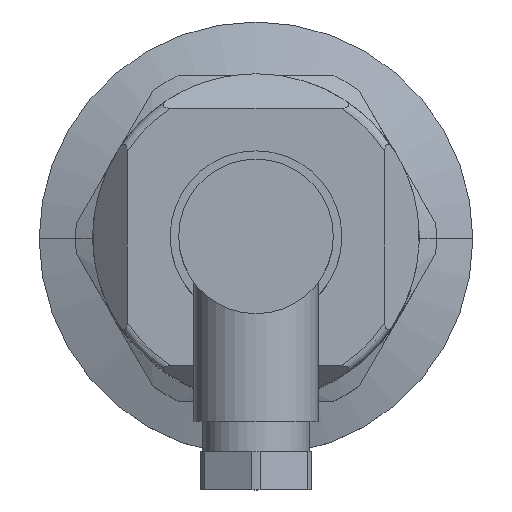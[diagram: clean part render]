
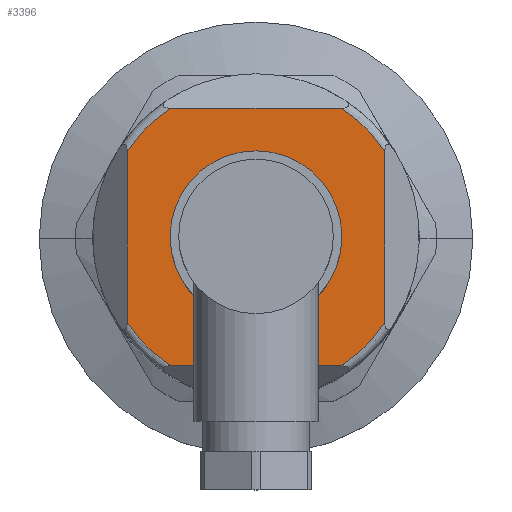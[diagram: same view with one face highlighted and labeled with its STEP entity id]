
A CAD part, top view. The second image highlights one B-rep face of the part: STEP entity #3396.
In plain terms, the highlighted planar face has unit normal (0, 0, 1) as drawn and (0, 1, 0) by its records, which use the part's own axes.
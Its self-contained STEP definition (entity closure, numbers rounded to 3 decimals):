
#6 = CARTESIAN_POINT ( 'NONE',  ( -50.913, 77.913, 7.75 ) ) ;
#23 = AXIS2_PLACEMENT_3D ( 'NONE', #3519, #1164, #1522 ) ;
#136 = EDGE_LOOP ( 'NONE', ( #1285, #2017 ) ) ;
#240 = CARTESIAN_POINT ( 'NONE',  ( -50.913, 77.913, 7.75 ) ) ;
#318 = LINE ( 'NONE', #760, #2897 ) ;
#353 = ORIENTED_EDGE ( 'NONE', *, *, #1724, .T. ) ;
#364 = FACE_BOUND ( 'NONE', #136, .T. ) ;
#444 = DIRECTION ( 'NONE',  ( 1., 0., 0. ) ) ;
#452 = AXIS2_PLACEMENT_3D ( 'NONE', #2809, #3941, #444 ) ;
#460 = AXIS2_PLACEMENT_3D ( 'NONE', #6, #4348, #1249 ) ;
#540 = CARTESIAN_POINT ( 'NONE',  ( -65.913, 77.913, 17.7 ) ) ;
#559 = EDGE_CURVE ( 'NONE', #2497, #4232, #4663, .T. ) ;
#642 = DIRECTION ( 'NONE',  ( 1., 0., 0. ) ) ;
#723 = DIRECTION ( 'NONE',  ( 1., 0., 0. ) ) ;
#731 = CIRCLE ( 'NONE', #1404, 18. ) ;
#760 = CARTESIAN_POINT ( 'NONE',  ( -65.913, 77.913, 7.75 ) ) ;
#805 = CIRCLE ( 'NONE', #2639, 6. ) ;
#865 = LINE ( 'NONE', #2904, #3148 ) ;
#972 = VERTEX_POINT ( 'NONE', #3587 ) ;
#1001 = EDGE_CURVE ( 'NONE', #2256, #972, #2833, .T. ) ;
#1042 = EDGE_CURVE ( 'NONE', #1345, #2445, #805, .T. ) ;
#1055 = CIRCLE ( 'NONE', #452, 18. ) ;
#1103 = ORIENTED_EDGE ( 'NONE', *, *, #4913, .F. ) ;
#1116 = ORIENTED_EDGE ( 'NONE', *, *, #3080, .F. ) ;
#1164 = DIRECTION ( 'NONE',  ( 0., -1., 0. ) ) ;
#1249 = DIRECTION ( 'NONE',  ( 1., 0., 0. ) ) ;
#1285 = ORIENTED_EDGE ( 'NONE', *, *, #1042, .F. ) ;
#1288 = VECTOR ( 'NONE', #2448, 1000. ) ;
#1345 = VERTEX_POINT ( 'NONE', #5098 ) ;
#1352 = CARTESIAN_POINT ( 'NONE',  ( -44.913, 77.913, 7.75 ) ) ;
#1404 = AXIS2_PLACEMENT_3D ( 'NONE', #240, #2964, #642 ) ;
#1416 = ORIENTED_EDGE ( 'NONE', *, *, #559, .F. ) ;
#1487 = VECTOR ( 'NONE', #4404, 1000. ) ;
#1522 = DIRECTION ( 'NONE',  ( 1., 0., 0. ) ) ;
#1568 = CIRCLE ( 'NONE', #3208, 18. ) ;
#1610 = FACE_OUTER_BOUND ( 'NONE', #4076, .T. ) ;
#1692 = CARTESIAN_POINT ( 'NONE',  ( -44.913, 77.913, 22.75 ) ) ;
#1724 = EDGE_CURVE ( 'NONE', #2497, #2856, #1568, .T. ) ;
#1759 = ORIENTED_EDGE ( 'NONE', *, *, #4027, .F. ) ;
#1781 = CIRCLE ( 'NONE', #3204, 6. ) ;
#1848 = CARTESIAN_POINT ( 'NONE',  ( -60.863, 77.913, 22.75 ) ) ;
#1890 = CARTESIAN_POINT ( 'NONE',  ( -40.963, 77.913, -7.25 ) ) ;
#1980 = VERTEX_POINT ( 'NONE', #540 ) ;
#2017 = ORIENTED_EDGE ( 'NONE', *, *, #3651, .F. ) ;
#2235 = VERTEX_POINT ( 'NONE', #1890 ) ;
#2256 = VERTEX_POINT ( 'NONE', #5029 ) ;
#2442 = CARTESIAN_POINT ( 'NONE',  ( -35.913, 77.913, -2.2 ) ) ;
#2445 = VERTEX_POINT ( 'NONE', #1352 ) ;
#2448 = DIRECTION ( 'NONE',  ( -1., 0., 0. ) ) ;
#2497 = VERTEX_POINT ( 'NONE', #4874 ) ;
#2504 = EDGE_CURVE ( 'NONE', #1980, #4232, #731, .T. ) ;
#2527 = CARTESIAN_POINT ( 'NONE',  ( -50.913, 77.913, 7.75 ) ) ;
#2639 = AXIS2_PLACEMENT_3D ( 'NONE', #4365, #3231, #3602 ) ;
#2809 = CARTESIAN_POINT ( 'NONE',  ( -50.913, 77.913, 7.75 ) ) ;
#2833 = CIRCLE ( 'NONE', #460, 18. ) ;
#2856 = VERTEX_POINT ( 'NONE', #4534 ) ;
#2897 = VECTOR ( 'NONE', #3477, 1000. ) ;
#2904 = CARTESIAN_POINT ( 'NONE',  ( -35.913, 77.913, 7.75 ) ) ;
#2964 = DIRECTION ( 'NONE',  ( 0., 1., 0. ) ) ;
#2978 = DIRECTION ( 'NONE',  ( -1., 0., 0. ) ) ;
#3080 = EDGE_CURVE ( 'NONE', #4553, #2856, #865, .T. ) ;
#3148 = VECTOR ( 'NONE', #4080, 1000. ) ;
#3204 = AXIS2_PLACEMENT_3D ( 'NONE', #2527, #3403, #2978 ) ;
#3208 = AXIS2_PLACEMENT_3D ( 'NONE', #4227, #4605, #723 ) ;
#3231 = DIRECTION ( 'NONE',  ( 0., 1., 0. ) ) ;
#3240 = ORIENTED_EDGE ( 'NONE', *, *, #1001, .T. ) ;
#3396 = ADVANCED_FACE ( 'NONE', ( #364, #1610 ), #3855, .F. ) ;
#3403 = DIRECTION ( 'NONE',  ( 0., 1., 0. ) ) ;
#3477 = DIRECTION ( 'NONE',  ( 0., 0., -1. ) ) ;
#3509 = EDGE_CURVE ( 'NONE', #4553, #2235, #1055, .T. ) ;
#3519 = CARTESIAN_POINT ( 'NONE',  ( -44.913, 77.913, 7.75 ) ) ;
#3587 = CARTESIAN_POINT ( 'NONE',  ( -65.913, 77.913, -2.2 ) ) ;
#3602 = DIRECTION ( 'NONE',  ( -1., 0., 0. ) ) ;
#3651 = EDGE_CURVE ( 'NONE', #2445, #1345, #1781, .T. ) ;
#3855 = PLANE ( 'NONE',  #23 ) ;
#3920 = LINE ( 'NONE', #3965, #1487 ) ;
#3941 = DIRECTION ( 'NONE',  ( 0., 1., 0. ) ) ;
#3965 = CARTESIAN_POINT ( 'NONE',  ( -44.913, 77.913, -7.25 ) ) ;
#4027 = EDGE_CURVE ( 'NONE', #2256, #2235, #3920, .T. ) ;
#4076 = EDGE_LOOP ( 'NONE', ( #1116, #5032, #1759, #3240, #1103, #4511, #1416, #353 ) ) ;
#4080 = DIRECTION ( 'NONE',  ( 0., 0., 1. ) ) ;
#4227 = CARTESIAN_POINT ( 'NONE',  ( -50.913, 77.913, 7.75 ) ) ;
#4232 = VERTEX_POINT ( 'NONE', #1848 ) ;
#4348 = DIRECTION ( 'NONE',  ( 0., 1., 0. ) ) ;
#4365 = CARTESIAN_POINT ( 'NONE',  ( -50.913, 77.913, 7.75 ) ) ;
#4404 = DIRECTION ( 'NONE',  ( 1., 0., 0. ) ) ;
#4511 = ORIENTED_EDGE ( 'NONE', *, *, #2504, .T. ) ;
#4534 = CARTESIAN_POINT ( 'NONE',  ( -35.913, 77.913, 17.7 ) ) ;
#4553 = VERTEX_POINT ( 'NONE', #2442 ) ;
#4605 = DIRECTION ( 'NONE',  ( 0., 1., 0. ) ) ;
#4663 = LINE ( 'NONE', #1692, #1288 ) ;
#4874 = CARTESIAN_POINT ( 'NONE',  ( -40.963, 77.913, 22.75 ) ) ;
#4913 = EDGE_CURVE ( 'NONE', #1980, #972, #318, .T. ) ;
#5029 = CARTESIAN_POINT ( 'NONE',  ( -60.863, 77.913, -7.25 ) ) ;
#5032 = ORIENTED_EDGE ( 'NONE', *, *, #3509, .T. ) ;
#5098 = CARTESIAN_POINT ( 'NONE',  ( -56.913, 77.913, 7.75 ) ) ;
